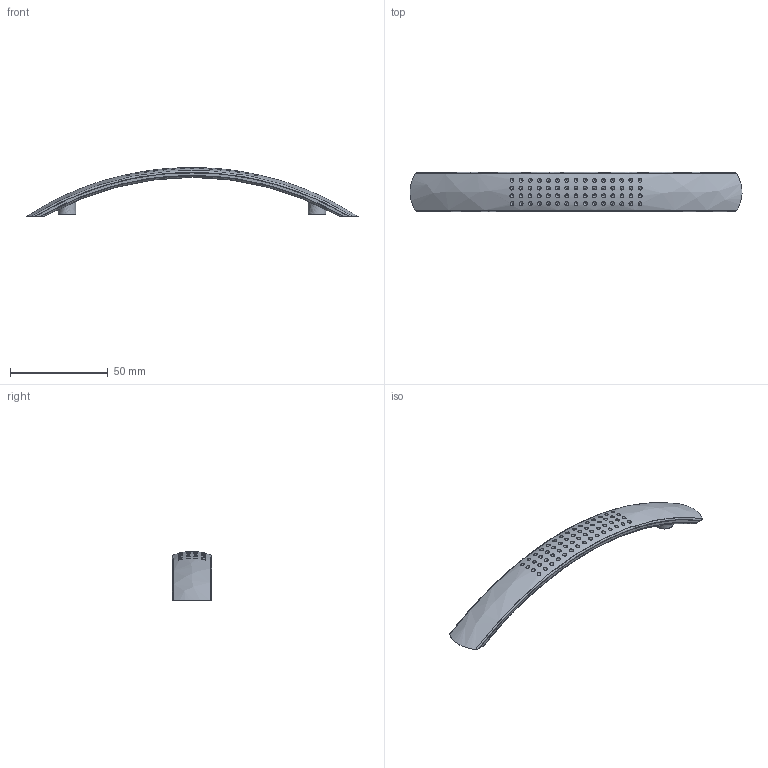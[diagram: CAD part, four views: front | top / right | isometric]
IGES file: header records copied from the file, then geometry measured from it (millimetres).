
Start section: C
Global section: file name: 0083-170.igs; native system: By Siemens PLM Incorporated; preprocessor: XPlus GENERIC/IGES 16.0.42; author: Author; organization: Title; date: 20260104.154640; units: millimetre
Bounding box: 169.95 x 20 x 24.98 mm (x, y, z)
Surface area: 8614.6 mm2 (no closed solid volume)
Topology: 0 solids, 0 shells, 79 faces, 386 edges, 326 vertices
Faces by surface type: bspline 79
